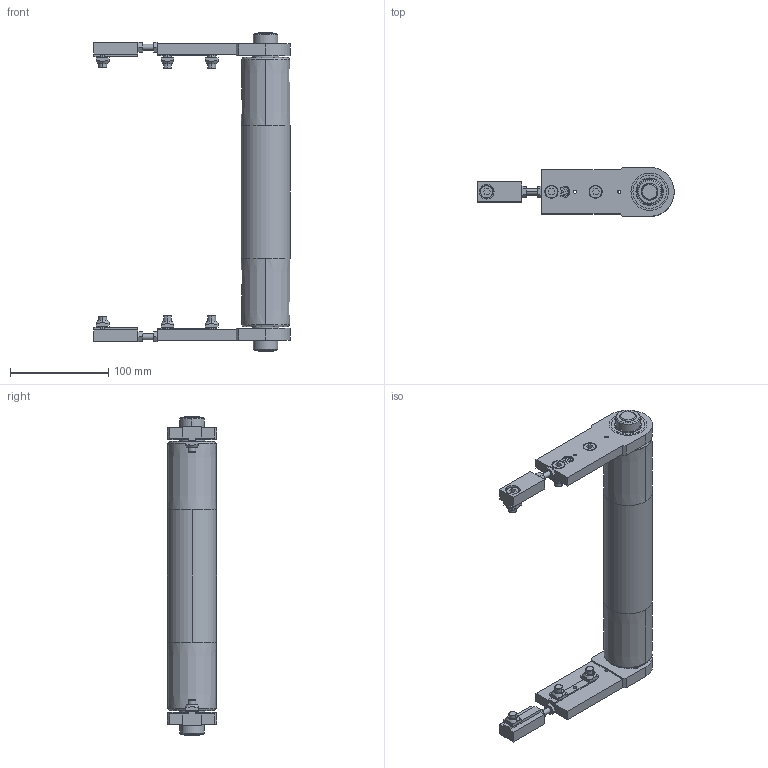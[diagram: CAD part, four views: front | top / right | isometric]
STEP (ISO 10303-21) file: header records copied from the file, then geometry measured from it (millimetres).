
FILE_DESCRIPTION (( 'STEP AP203' ), '1' );
FILE_NAME ('084.050.KIC.250.STEP', '2018-06-11T14:01:32', ( 'Localadmin' ), ( 'Microsoft' ), 'SwSTEP 2.0', 'SolidWorks 2016', '' );
FILE_SCHEMA (( 'CONFIG_CONTROL_DESIGN' ));
Length unit declared in the file: millimetre
Products named in the file (9): 084.807.004_084.807.004; 084.301.000 VITI ALUSIC_084.301.003; 084.802.017_084.802.017; 084.302.000 DADI ALUSIC 13x13_084.302.004; 084.811.004; 084.050.KIC.250; 084.815.104_Default<A macchina>; 084.810.001; 084.802.008
Assembly tree (23 placements, depth 2):
  084.050.KIC.250
    084.807.004_084.807.004  x2
    084.802.017_084.802.017  x2
    084.811.004  x2
    084.815.104_Default<A macchina>
    084.810.001  x2
    084.802.008  x2
    084.301.000 VITI ALUSIC_084.301.003  x6
    084.302.000 DADI ALUSIC 13x13_084.302.004  x6
Bounding box: 200 x 50 x 324 mm (x, y, z)
Volume: 387173 mm3; surface area: 226881.9 mm2
Topology: 29 solids, 31 shells, 750 faces, 1874 edges, 1220 vertices
Faces by surface type: plane 350, cylinder 218, torus 76, cone 52, bspline 46, sphere 8
Entity records: 12434 total; most frequent: CARTESIAN_POINT 2392, DIRECTION 1893, ORIENTED_EDGE 1766, EDGE_CURVE 883, AXIS2_PLACEMENT_3D 728, VERTEX_POINT 579, VECTOR 437, LINE 437
